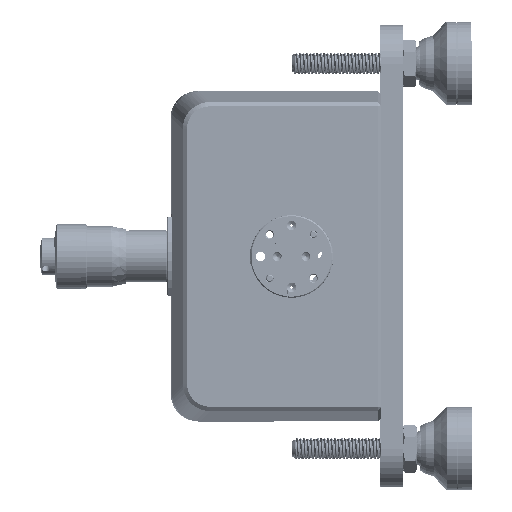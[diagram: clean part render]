
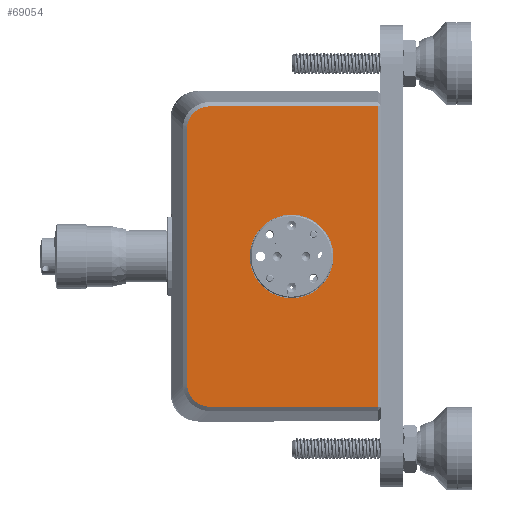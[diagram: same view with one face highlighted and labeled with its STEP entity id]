
A CAD part, left-side view. The second image highlights one B-rep face of the part: STEP entity #69054.
In plain terms, the highlighted planar face has unit normal (-1, -0.002, -0.001).
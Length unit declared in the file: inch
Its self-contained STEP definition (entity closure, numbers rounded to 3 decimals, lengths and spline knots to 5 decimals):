
#2255 = CARTESIAN_POINT ( 'NONE',  ( -1.59347, -6.87485, -2.68332 ) ) ;
#20456 = VERTEX_POINT ( 'NONE', #214671 ) ;
#26335 = CARTESIAN_POINT ( 'NONE',  ( -1.59505, -6.76588, 0.02046 ) ) ;
#32647 = CARTESIAN_POINT ( 'NONE',  ( -1.59356, -6.81985, -2.67797 ) ) ;
#35956 = VECTOR ( 'NONE', #362364, 39.37008 ) ;
#44200 = DIRECTION ( 'NONE',  ( 1., 0.002, 0.001 ) ) ;
#50842 = VERTEX_POINT ( 'NONE', #244100 ) ;
#51732 = ORIENTED_EDGE ( 'NONE', *, *, #309897, .T. ) ;
#61139 = AXIS2_PLACEMENT_3D ( 'NONE', #107738, #383313, #419200 ) ;
#61860 = CARTESIAN_POINT ( 'NONE',  ( -1.59451, -6.66416, -1.31852 ) ) ;
#65006 = EDGE_CURVE ( 'NONE', #261429, #398863, #237144, .T. ) ;
#69054 = ADVANCED_FACE ( 'NONE', ( #317594, #252124 ), #351665, .F. ) ;
#84624 = EDGE_CURVE ( 'NONE', #398863, #345507, #95860, .T. ) ;
#87342 = ORIENTED_EDGE ( 'NONE', *, *, #65006, .T. ) ;
#95860 = LINE ( 'NONE', #61860, #340741 ) ;
#97117 = DIRECTION ( 'NONE',  ( -0.001, 0.001, 1. ) ) ;
#102782 = CARTESIAN_POINT ( 'NONE',  ( -1.5937, -6.7461, -2.64177 ) ) ;
#105024 = CARTESIAN_POINT ( 'NONE',  ( -1.59378, -6.70755, -2.60331 ) ) ;
#105755 = CARTESIAN_POINT ( 'NONE',  ( -1.59109, -8.401, -2.68134 ) ) ;
#107738 = CARTESIAN_POINT ( 'NONE',  ( -1.59303, -7.61424, -1.31728 ) ) ;
#110811 = ORIENTED_EDGE ( 'NONE', *, *, #289488, .F. ) ;
#112126 = CARTESIAN_POINT ( 'NONE',  ( -1.59324, -7.47924, -1.31746 ) ) ;
#131290 = DIRECTION ( 'NONE',  ( -0.001, 0.001, 1. ) ) ;
#132321 = DIRECTION ( 'NONE',  ( 0.002, -1., 0.001 ) ) ;
#132550 = CARTESIAN_POINT ( 'NONE',  ( -1.59513, -6.66262, -0.13482 ) ) ;
#133459 = AXIS2_PLACEMENT_3D ( 'NONE', #309286, #239370, #97117 ) ;
#141457 = EDGE_CURVE ( 'NONE', #345507, #291206, #385847, .T. ) ;
#150822 = CARTESIAN_POINT ( 'NONE',  ( -1.59494, -6.84382, 0.0468 ) ) ;
#155432 = VERTEX_POINT ( 'NONE', #105755 ) ;
#163835 = CARTESIAN_POINT ( 'NONE',  ( -1.59352, -6.84731, -2.68336 ) ) ;
#163888 = CARTESIAN_POINT ( 'NONE',  ( -1.59391, -6.66566, -2.47467 ) ) ;
#166773 = ORIENTED_EDGE ( 'NONE', *, *, #331833, .T. ) ;
#171480 = CARTESIAN_POINT ( 'NONE',  ( -1.59251, -8.39746, 0.04881 ) ) ;
#182045 = DIRECTION ( 'NONE',  ( 0.001, -0.001, -1. ) ) ;
#195323 = CARTESIAN_POINT ( 'NONE',  ( -1.59511, -6.66266, -0.16236 ) ) ;
#195939 = CARTESIAN_POINT ( 'NONE',  ( -1.59489, -6.87131, 0.04683 ) ) ;
#196031 = AXIS2_PLACEMENT_3D ( 'NONE', #112126, #44200, #182045 ) ;
#203297 = ORIENTED_EDGE ( 'NONE', *, *, #406797, .T. ) ;
#213244 = CARTESIAN_POINT ( 'NONE',  ( -1.59511, -6.70421, -0.03361 ) ) ;
#214671 = CARTESIAN_POINT ( 'NONE',  ( -1.59322, -7.61374, -0.93729 ) ) ;
#234771 = CIRCLE ( 'NONE', #133459, 0.38 ) ;
#237144 = B_SPLINE_CURVE_WITH_KNOTS ( 'NONE', 3,
 ( #195939, #150822, #426224, #26335, #384803, #213244, #340363, #268110, #132550, #335880 ),
 .UNSPECIFIED., .F., .F.,
 ( 4, 2, 2, 2, 4 ),
 ( 0., 0.25, 0.5, 0.75, 1. ),
 .UNSPECIFIED. ) ;
#238335 = CARTESIAN_POINT ( 'NONE',  ( -1.59387, -6.67116, -2.52965 ) ) ;
#239370 = DIRECTION ( 'NONE',  ( -1., -0.002, -0.001 ) ) ;
#240571 = CARTESIAN_POINT ( 'NONE',  ( -1.59347, -6.87485, -2.68332 ) ) ;
#242821 = CARTESIAN_POINT ( 'NONE',  ( -1.59365, -6.76936, -2.65723 ) ) ;
#244100 = CARTESIAN_POINT ( 'NONE',  ( -1.59283, -7.61473, -1.69728 ) ) ;
#252124 = FACE_OUTER_BOUND ( 'NONE', #308369, .T. ) ;
#260212 = ORIENTED_EDGE ( 'NONE', *, *, #141457, .T. ) ;
#260618 = CARTESIAN_POINT ( 'NONE',  ( -1.59395, -7.47747, 0.04762 ) ) ;
#261429 = VERTEX_POINT ( 'NONE', #422315 ) ;
#268110 = CARTESIAN_POINT ( 'NONE',  ( -1.59513, -6.66802, -0.10736 ) ) ;
#269197 = EDGE_CURVE ( 'NONE', #20456, #50842, #284676, .T. ) ;
#270647 = ORIENTED_EDGE ( 'NONE', *, *, #269197, .F. ) ;
#284676 = CIRCLE ( 'NONE', #61139, 0.38 ) ;
#289488 = EDGE_CURVE ( 'NONE', #50842, #20456, #234771, .T. ) ;
#291206 = VERTEX_POINT ( 'NONE', #2255 ) ;
#295103 = LINE ( 'NONE', #432649, #335420 ) ;
#302935 = LINE ( 'NONE', #440425, #436940 ) ;
#308369 = EDGE_LOOP ( 'NONE', ( #260212, #166773, #51732, #203297, #87342, #429001 ) ) ;
#309286 = CARTESIAN_POINT ( 'NONE',  ( -1.59303, -7.61424, -1.31728 ) ) ;
#309897 = EDGE_CURVE ( 'NONE', #155432, #383430, #302935, .T. ) ;
#310860 = EDGE_LOOP ( 'NONE', ( #270647, #110811 ) ) ;
#317594 = FACE_BOUND ( 'NONE', #310860, .T. ) ;
#331833 = EDGE_CURVE ( 'NONE', #291206, #155432, #295103, .T. ) ;
#335420 = VECTOR ( 'NONE', #132321, 39.37008 ) ;
#335880 = CARTESIAN_POINT ( 'NONE',  ( -1.59511, -6.66266, -0.16236 ) ) ;
#340363 = CARTESIAN_POINT ( 'NONE',  ( -1.59513, -6.68876, -0.05687 ) ) ;
#340741 = VECTOR ( 'NONE', #443352, 39.37008 ) ;
#345507 = VERTEX_POINT ( 'NONE', #163888 ) ;
#351665 = PLANE ( 'NONE',  #196031 ) ;
#362364 = DIRECTION ( 'NONE',  ( -0.002, 1., -0.001 ) ) ;
#373868 = CARTESIAN_POINT ( 'NONE',  ( -1.59391, -6.66566, -2.47467 ) ) ;
#383313 = DIRECTION ( 'NONE',  ( -1., -0.002, -0.001 ) ) ;
#383430 = VERTEX_POINT ( 'NONE', #171480 ) ;
#384803 = CARTESIAN_POINT ( 'NONE',  ( -1.59507, -6.74267, 0.00494 ) ) ;
#385847 = B_SPLINE_CURVE_WITH_KNOTS ( 'NONE', 3,
 ( #373868, #443573, #238335, #411976, #105024, #102782, #242821, #32647, #163835, #240571 ),
 .UNSPECIFIED., .F., .F.,
 ( 4, 2, 2, 2, 4 ),
 ( 0., 0.25, 0.5, 0.75, 1. ),
 .UNSPECIFIED. ) ;
#391638 = LINE ( 'NONE', #260618, #35956 ) ;
#398863 = VERTEX_POINT ( 'NONE', #195323 ) ;
#406797 = EDGE_CURVE ( 'NONE', #383430, #261429, #391638, .T. ) ;
#411976 = CARTESIAN_POINT ( 'NONE',  ( -1.59381, -6.69203, -2.5801 ) ) ;
#419200 = DIRECTION ( 'NONE',  ( -0.001, 0.001, 1. ) ) ;
#422315 = CARTESIAN_POINT ( 'NONE',  ( -1.59489, -6.87131, 0.04683 ) ) ;
#426224 = CARTESIAN_POINT ( 'NONE',  ( -1.59498, -6.81633, 0.04132 ) ) ;
#429001 = ORIENTED_EDGE ( 'NONE', *, *, #84624, .T. ) ;
#432649 = CARTESIAN_POINT ( 'NONE',  ( -1.59253, -7.48101, -2.68254 ) ) ;
#436940 = VECTOR ( 'NONE', #131290, 39.37008 ) ;
#440425 = CARTESIAN_POINT ( 'NONE',  ( -1.5918, -8.39923, -1.31627 ) ) ;
#443352 = DIRECTION ( 'NONE',  ( 0.001, -0.001, -1. ) ) ;
#443573 = CARTESIAN_POINT ( 'NONE',  ( -1.59389, -6.66569, -2.50216 ) ) ;
